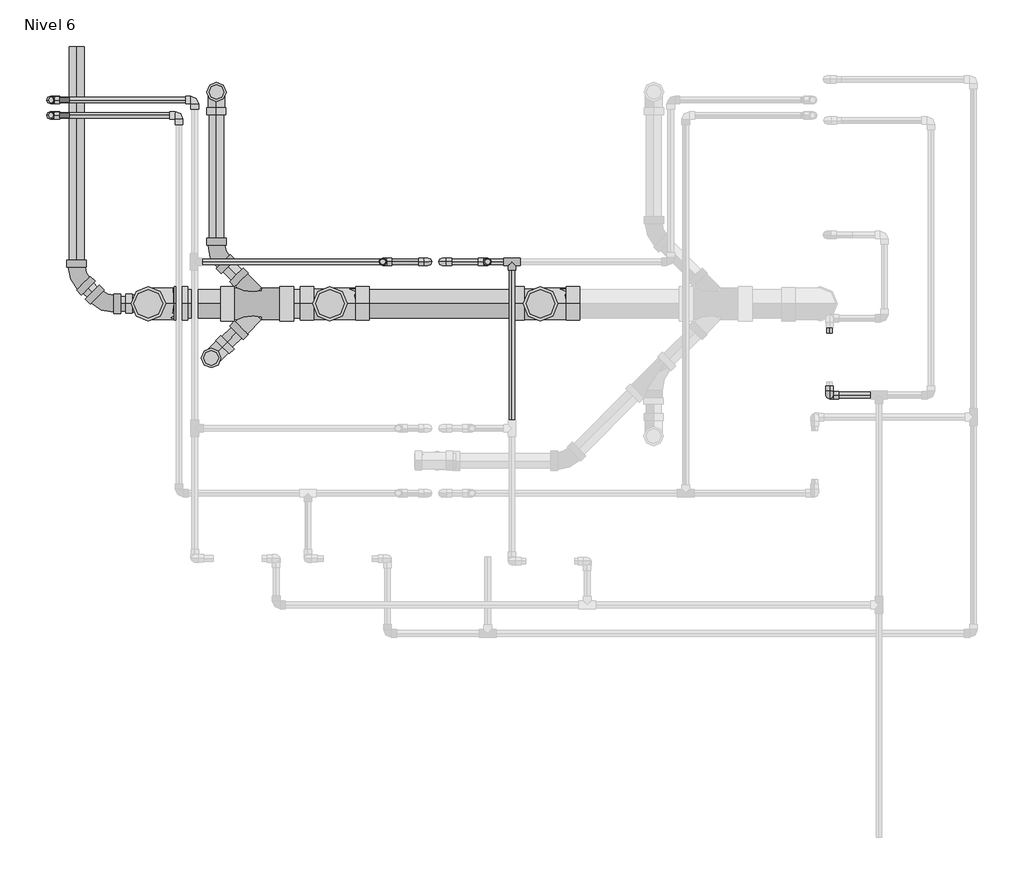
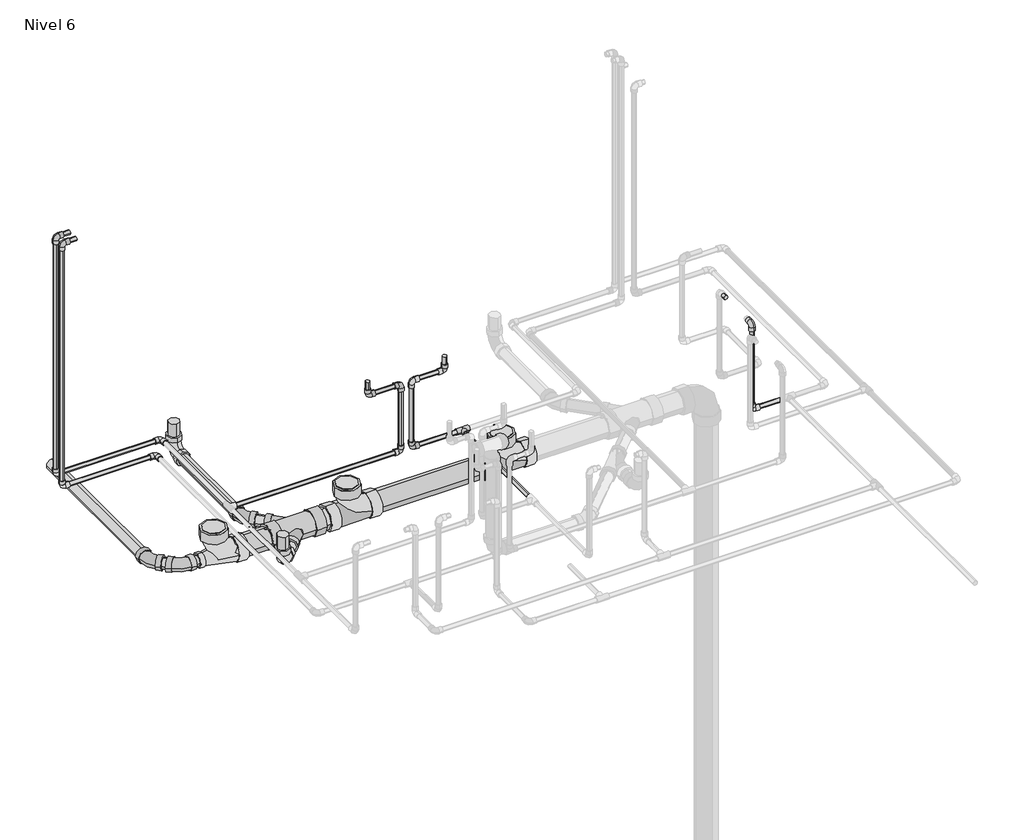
# One storey, part 10 of 11: 32 pipe segments, 24 pipe fittings.
"""IFC4 building model written with IfcOpenShell, lengths in millimetres."""

from ifc_helpers import new_model, si_unit, point, frame, frame_2d, origin, place, context, project, spatial, circle_curve, trimmed, segment, composite_curve, outline, extrude, transform, mapped, element, save
from components import pipe_fitting_ab418b84, pipe_fitting_2a8dfbef, pipe_fitting_44a425ca, pipe_fitting_815a0334, m_codo_pvc_serie_40_9ad74631, m_codo_pvc_serie_40_dwv1_5c0ec739, m_codo_pvc_serie_40_dwv1_6f1a2495

model = new_model("IFC4")

# Units and contexts
model_context = context("Model", 3, world=origin())
ifc_project = project(units=[si_unit("LENGTHUNIT", "METRE", prefix="MILLI")], contexts=[model_context])

# Site, building, storey
site = spatial("IfcSite", under=ifc_project)
building = spatial("IfcBuilding", under=site)
storey = spatial("IfcBuildingStorey", under=building, Name="Nivel 6", Elevation=13400.0)

# Pipe fittings
placement = place(None, origin())
pipe_fitting_shape = pipe_fitting_ab418b84(model_context)
element("IfcPipeFitting", 1, ObjectType="M_Te - PVC - Serie 40 : Estándar", at=placement, inside=storey, context=model_context, shape_type="MappedRepresentation", body=[
    mapped(pipe_fitting_shape, transform((4735.1825677, 16556.8784649, 13350.0), x_axis=(1.0, 0.0, 0.0), y_axis=(0.0, 1.0, 0.0), z_axis=(0.0, 0.0, 1.0))),
])
pipe_fitting_2_shape = pipe_fitting_2a8dfbef(model_context)
element("IfcPipeFitting", 2, ObjectType="M_Sanitario con te de reducción - PVC - Serie 40 - DWV : Estándar", at=placement, inside=storey, context=model_context, shape_type="MappedRepresentation", body=[
    mapped(pipe_fitting_2_shape, transform((4839.2491598, 16403.3960274, 13250.0), x_axis=(-1.0, 0.0, 0.0), y_axis=(0.0, 0.0, -1.0), z_axis=(0.0, -1.0, 0.0))),
])
element("IfcPipeFitting", 3, ObjectType="M_Sanitario con te de reducción - PVC - Serie 40 - DWV : Estándar", at=placement, inside=storey, context=model_context, shape_type="MappedRepresentation", body=[
    mapped(pipe_fitting_2_shape, transform((4070.6571051, 16403.3960274, 13250.0), x_axis=(-1.0, 0.0, 0.0), y_axis=(0.0, 0.0, -1.0), z_axis=(0.0, -1.0, 0.0))),
])
pipe_fitting_3_shape = pipe_fitting_44a425ca(model_context)
element("IfcPipeFitting", 4, ObjectType="M_Sanitario con te de reducción - PVC - Serie 40 - DWV : Estándar", at=placement, inside=storey, context=model_context, shape_type="MappedRepresentation", body=[
    mapped(pipe_fitting_3_shape, transform((3407.8195636, 16403.3960274, 13250.0), x_axis=(-1.0, 0.0, 0.0), y_axis=(0.0, 0.0, -1.0), z_axis=(0.0, -1.0, 0.0))),
])
pipe_fitting_4_shape = pipe_fitting_815a0334(model_context)
element("IfcPipeFitting", 5, ObjectType="M_Sanitario con te doble con reducción - PVC - Serie 40 - DWV : Estándar", at=placement, inside=storey, context=model_context, shape_type="MappedRepresentation", body=[
    mapped(pipe_fitting_4_shape, transform((3835.362636, 16403.3960274, 13250.0), x_axis=(-1.0, 0.0, 0.0), y_axis=(0.0, -1.0, 0.0), z_axis=(0.0, 0.0, 1.0))),
])
m_codo_pvc_serie_40_shape = m_codo_pvc_serie_40_9ad74631(model_context)
element("IfcPipeFitting", 6, ObjectType="M_Codo - PVC - Serie 40 : Estándar", at=placement, inside=storey, context=model_context, shape_type="MappedRepresentation", body=[
    mapped(m_codo_pvc_serie_40_shape, transform((5895.1825677, 16069.8852168, 13350.0), x_axis=(-1.0, 0.0, 0.0), y_axis=(0.0, 0.0, 1.0), z_axis=(0.0, 1.0, 0.0))),
])
element("IfcPipeFitting", 7, ObjectType="M_Codo - PVC - Serie 40 : Estándar", at=placement, inside=storey, context=model_context, shape_type="MappedRepresentation", body=[
    mapped(m_codo_pvc_serie_40_shape, transform((5895.1825677, 16069.8852168, 13800.0), x_axis=(0.0, 0.0, 1.0), y_axis=(0.0, 1.0, 0.0), z_axis=(-1.0, 0.0, 0.0))),
])
element("IfcPipeFitting", 8, ObjectType="M_Codo - PVC - Serie 40 : Estándar", at=placement, inside=storey, context=model_context, shape_type="MappedRepresentation", body=[
    mapped(m_codo_pvc_serie_40_shape, transform((4646.2723463, 16556.8784649, 13700.0), x_axis=(0.0, 0.0, -1.0), y_axis=(-1.0, 0.0, 0.0), z_axis=(0.0, 1.0, 0.0))),
])
element("IfcPipeFitting", 9, ObjectType="M_Codo - PVC - Serie 40 : Estándar", at=placement, inside=storey, context=model_context, shape_type="MappedRepresentation", body=[
    mapped(m_codo_pvc_serie_40_shape, transform((4481.2723463, 16556.8784649, 13700.0), x_axis=(-1.0, 0.0, 0.0), y_axis=(0.0, 0.0, -1.0), z_axis=(0.0, -1.0, 0.0))),
])
element("IfcPipeFitting", 10, ObjectType="M_Codo - PVC - Serie 40 : Estándar", at=placement, inside=storey, context=model_context, shape_type="MappedRepresentation", body=[
    mapped(m_codo_pvc_serie_40_shape, transform((4481.2723463, 16556.8784649, 13350.0), x_axis=(0.0, 0.0, -1.0), y_axis=(1.0, 0.0, 0.0), z_axis=(0.0, -1.0, 0.0))),
])
element("IfcPipeFitting", 11, ObjectType="M_Codo - PVC - Serie 40 : Estándar", at=placement, inside=storey, context=model_context, shape_type="MappedRepresentation", body=[
    mapped(m_codo_pvc_serie_40_shape, transform((4263.6339186, 16556.8784649, 13700.0), x_axis=(0.0, 0.0, -1.0), y_axis=(1.0, 0.0, 0.0), z_axis=(0.0, -1.0, 0.0))),
])
element("IfcPipeFitting", 12, ObjectType="M_Codo - PVC - Serie 40 : Estándar", at=placement, inside=storey, context=model_context, shape_type="MappedRepresentation", body=[
    mapped(m_codo_pvc_serie_40_shape, transform((4428.6339186, 16556.8784649, 13700.0), x_axis=(1.0, 0.0, 0.0), y_axis=(0.0, 0.0, -1.0), z_axis=(0.0, 1.0, 0.0))),
])
element("IfcPipeFitting", 13, ObjectType="M_Codo - PVC - Serie 40 : Estándar", at=placement, inside=storey, context=model_context, shape_type="MappedRepresentation", body=[
    mapped(m_codo_pvc_serie_40_shape, transform((4428.6339186, 16556.8784649, 13350.0), x_axis=(0.0, 0.0, -1.0), y_axis=(-1.0, 0.0, 0.0), z_axis=(0.0, 1.0, 0.0))),
])
element("IfcPipeFitting", 14, ObjectType="M_Codo - PVC - Serie 40 : Estándar", at=placement, inside=storey, context=model_context, shape_type="MappedRepresentation", body=[
    mapped(m_codo_pvc_serie_40_shape, transform((3577.2224115, 17147.3386211, 13350.0), x_axis=(0.0, 1.0, 0.0), y_axis=(-1.0, 0.0, 0.0), z_axis=(0.0, 0.0, 1.0))),
])
element("IfcPipeFitting", 15, ObjectType="M_Codo - PVC - Serie 40 : Estándar", at=placement, inside=storey, context=model_context, shape_type="MappedRepresentation", body=[
    mapped(m_codo_pvc_serie_40_shape, transform((3050.9724115, 17147.3386211, 13350.0), x_axis=(-1.0, 0.0, 0.0), y_axis=(0.0, 0.0, 1.0), z_axis=(0.0, 1.0, 0.0))),
])
element("IfcPipeFitting", 16, ObjectType="M_Codo - PVC - Serie 40 : Estándar", at=placement, inside=storey, context=model_context, shape_type="MappedRepresentation", body=[
    mapped(m_codo_pvc_serie_40_shape, transform((3050.9724115, 17147.3386211, 14600.0), x_axis=(0.0, 0.0, 1.0), y_axis=(1.0, 0.0, 0.0), z_axis=(0.0, 1.0, 0.0))),
])
element("IfcPipeFitting", 17, ObjectType="M_Codo - PVC - Serie 40 : Estándar", at=placement, inside=storey, context=model_context, shape_type="MappedRepresentation", body=[
    mapped(m_codo_pvc_serie_40_shape, transform((3520.1825677, 17091.6215833, 13320.0), x_axis=(0.0, 1.0, 0.0), y_axis=(-1.0, 0.0, 0.0), z_axis=(0.0, 0.0, 1.0))),
])
element("IfcPipeFitting", 18, ObjectType="M_Codo - PVC - Serie 40 : Estándar", at=placement, inside=storey, context=model_context, shape_type="MappedRepresentation", body=[
    mapped(m_codo_pvc_serie_40_shape, transform((3050.1825677, 17091.6215833, 13320.0), x_axis=(-1.0, 0.0, 0.0), y_axis=(0.0, 0.0, 1.0), z_axis=(0.0, 1.0, 0.0))),
])
element("IfcPipeFitting", 19, ObjectType="M_Codo - PVC - Serie 40 : Estándar", at=placement, inside=storey, context=model_context, shape_type="MappedRepresentation", body=[
    mapped(m_codo_pvc_serie_40_shape, transform((3050.1825677, 17091.6215833, 14600.0), x_axis=(0.0, 0.0, 1.0), y_axis=(1.0, 0.0, 0.0), z_axis=(0.0, 1.0, 0.0))),
])
m_codo_pvc_serie_40_dwv1_shape = m_codo_pvc_serie_40_dwv1_5c0ec739(model_context)
element("IfcPipeFitting", 20, ObjectType="M_Codo - PVC - Serie 40 - DWV1 : Estándar 2", at=placement, inside=storey, context=model_context, shape_type="MappedRepresentation", body=[
    mapped(m_codo_pvc_serie_40_dwv1_shape, transform((3637.3727372, 16205.4061286, 13250.0), x_axis=(-0.7071067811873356, -0.7071067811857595, 0.0), y_axis=(0.0, 0.0, 1.0000000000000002), z_axis=(-0.7071067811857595, 0.7071067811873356, 0.0))),
])
element("IfcPipeFitting", 21, ObjectType="M_Codo - PVC - Serie 40 - DWV1 : Estándar 2", at=placement, inside=storey, context=model_context, shape_type="MappedRepresentation", body=[
    mapped(m_codo_pvc_serie_40_dwv1_shape, transform((3656.724176, 17177.0344873, 13250.0), x_axis=(0.0, 1.0, 0.0), y_axis=(0.0, 0.0, 1.0), z_axis=(1.0, 0.0, 0.0))),
])
m_codo_pvc_serie_40_dwv1_2_shape = m_codo_pvc_serie_40_dwv1_6f1a2495(model_context)
element("IfcPipeFitting", 22, ObjectType="M_Codo - PVC - Serie 40 - DWV1 : Estándar 2", at=placement, inside=storey, context=model_context, shape_type="MappedRepresentation", body=[
    mapped(m_codo_pvc_serie_40_dwv1_2_shape, transform((3146.1843946, 16503.1016548, 13250.0), x_axis=(0.0, -1.0, 0.0), y_axis=(1.0, 0.0, 0.0), z_axis=(0.0, 0.0, 1.0))),
])
element("IfcPipeFitting", 23, ObjectType="M_Codo - PVC - Serie 40 - DWV1 : Estándar 2", at=placement, inside=storey, context=model_context, shape_type="MappedRepresentation", body=[
    mapped(m_codo_pvc_serie_40_dwv1_2_shape, transform((3245.8900221, 16403.3960274, 13250.0), x_axis=(0.7071067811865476, -0.7071067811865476, 0.0), y_axis=(0.7071067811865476, 0.7071067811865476, 0.0), z_axis=(0.0, 0.0, 1.0))),
])
element("IfcPipeFitting", 24, ObjectType="M_Codo - PVC - Serie 40 - DWV1 : Estándar 2", at=placement, inside=storey, context=model_context, shape_type="MappedRepresentation", body=[
    mapped(m_codo_pvc_serie_40_dwv1_2_shape, transform((3656.724176, 16582.0344873, 13250.0), x_axis=(0.0, -1.0, 0.0), y_axis=(1.0, 0.0, 0.0), z_axis=(0.0, 0.0, 1.0))),
])

# Pipe segments
element("IfcPipeSegment", 25, ObjectType="Tuberia PVC Agua Fria", at=placement, inside=storey, context=model_context, shape_type="SweptSolid", body=[
    extrude(outline(composite_curve([segment(trimmed(circle_curve(frame_2d((16069.8852168, 13350.0)), 10.31875), [point((16080.2039668, 13350.0))], [point((16069.8852168, 13339.68125))], False, "CARTESIAN"), True, "CONTINUOUS"), segment(trimmed(circle_curve(frame_2d((16069.8852168, 13350.0)), 10.31875), [point((16069.8852168, 13339.68125))], [point((16059.5664668, 13350.0))], False, "CARTESIAN"), True, "CONTINUOUS"), segment(trimmed(circle_curve(frame_2d((16069.8852168, 13350.0)), 10.31875), [point((16059.5664668, 13350.0))], [point((16069.8852168, 13360.31875))], False, "CARTESIAN"), True, "CONTINUOUS"), segment(trimmed(circle_curve(frame_2d((16069.8852168, 13350.0)), 10.31875), [point((16069.8852168, 13360.31875))], [point((16080.2039668, 13350.0))], False, "CARTESIAN"), True, "CONTINUOUS")], self_intersect=False)), frame((5928.5835677, 0.0, 0.0), z_axis=(1.0, 0.0, 0.0), x_axis=(0.0, 1.0, 0.0)), (0.0, 0.0, 1.0), 116.1388438),
])
element("IfcPipeSegment", 26, ObjectType="Tuberia PVC Agua Fria", at=placement, inside=storey, context=model_context, shape_type="SweptSolid", body=[
    extrude(outline(composite_curve([segment(trimmed(circle_curve(frame_2d((13800.0, 5895.1825677)), 10.31875), [point((13800.0, 5905.5013177))], [point((13810.31875, 5895.1825677))], False, "CARTESIAN"), True, "CONTINUOUS"), segment(trimmed(circle_curve(frame_2d((13800.0, 5895.1825677)), 10.31875), [point((13810.31875, 5895.1825677))], [point((13800.0, 5884.8638177))], False, "CARTESIAN"), True, "CONTINUOUS"), segment(trimmed(circle_curve(frame_2d((13800.0, 5895.1825677)), 10.31875), [point((13800.0, 5884.8638177))], [point((13789.68125, 5895.1825677))], False, "CARTESIAN"), True, "CONTINUOUS"), segment(trimmed(circle_curve(frame_2d((13800.0, 5895.1825677)), 10.31875), [point((13789.68125, 5895.1825677))], [point((13800.0, 5905.5013177))], False, "CARTESIAN"), True, "CONTINUOUS")], self_intersect=False)), frame((0.0, 16296.3852168, 0.0), z_axis=(0.0, 1.0, 0.0), x_axis=(0.0, 0.0, 1.0)), (0.0, 0.0, 1.0), 20.099),
])
element("IfcPipeSegment", 27, ObjectType="Tuberia PVC Agua Fria", at=placement, inside=storey, context=model_context, shape_type="SweptSolid", body=[
    extrude(outline(composite_curve([segment(trimmed(circle_curve(frame_2d((5895.1825677, 16069.8852168)), 10.31875), [point((5884.8638177, 16069.8852168))], [point((5895.1825677, 16080.2039668))], False, "CARTESIAN"), True, "CONTINUOUS"), segment(trimmed(circle_curve(frame_2d((5895.1825677, 16069.8852168)), 10.31875), [point((5895.1825677, 16080.2039668))], [point((5905.5013177, 16069.8852168))], False, "CARTESIAN"), True, "CONTINUOUS"), segment(trimmed(circle_curve(frame_2d((5895.1825677, 16069.8852168)), 10.31875), [point((5905.5013177, 16069.8852168))], [point((5895.1825677, 16059.5664668))], False, "CARTESIAN"), True, "CONTINUOUS"), segment(trimmed(circle_curve(frame_2d((5895.1825677, 16069.8852168)), 10.31875), [point((5895.1825677, 16059.5664668))], [point((5884.8638177, 16069.8852168))], False, "CARTESIAN"), True, "CONTINUOUS")], self_intersect=False)), frame((0.0, 0.0, 13383.401), z_axis=(0.0, 0.0, 1.0), x_axis=(1.0, 0.0, 0.0)), (0.0, 0.0, 1.0), 383.198),
])
element("IfcPipeSegment", 28, ObjectType="Tuberia PVC Agua Fria", at=placement, inside=storey, context=model_context, shape_type="SweptSolid", body=[
    extrude(outline(composite_curve([segment(trimmed(circle_curve(frame_2d((13350.0, 4735.1825677)), 10.31875), [point((13350.0, 4745.5013177))], [point((13360.31875, 4735.1825677))], False, "CARTESIAN"), True, "CONTINUOUS"), segment(trimmed(circle_curve(frame_2d((13350.0, 4735.1825677)), 10.31875), [point((13360.31875, 4735.1825677))], [point((13350.0, 4724.8638177))], False, "CARTESIAN"), True, "CONTINUOUS"), segment(trimmed(circle_curve(frame_2d((13350.0, 4735.1825677)), 10.31875), [point((13350.0, 4724.8638177))], [point((13339.68125, 4735.1825677))], False, "CARTESIAN"), True, "CONTINUOUS"), segment(trimmed(circle_curve(frame_2d((13350.0, 4735.1825677)), 10.31875), [point((13339.68125, 4735.1825677))], [point((13350.0, 4745.5013177))], False, "CARTESIAN"), True, "CONTINUOUS")], self_intersect=False)), frame((0.0, 15978.8385729, 0.0), z_axis=(0.0, 1.0, 0.0), x_axis=(0.0, 0.0, 1.0)), (0.0, 0.0, 1.0), 547.5797357),
])
element("IfcPipeSegment", 29, ObjectType="Tuberia PVC Agua Fria", at=placement, inside=storey, context=model_context, shape_type="SweptSolid", body=[
    extrude(outline(composite_curve([segment(trimmed(circle_curve(frame_2d((16556.8784649, 13700.0)), 10.31875), [point((16567.1972149, 13700.0))], [point((16556.8784649, 13689.68125))], False, "CARTESIAN"), True, "CONTINUOUS"), segment(trimmed(circle_curve(frame_2d((16556.8784649, 13700.0)), 10.31875), [point((16556.8784649, 13689.68125))], [point((16546.5597149, 13700.0))], False, "CARTESIAN"), True, "CONTINUOUS"), segment(trimmed(circle_curve(frame_2d((16556.8784649, 13700.0)), 10.31875), [point((16546.5597149, 13700.0))], [point((16556.8784649, 13710.31875))], False, "CARTESIAN"), True, "CONTINUOUS"), segment(trimmed(circle_curve(frame_2d((16556.8784649, 13700.0)), 10.31875), [point((16556.8784649, 13710.31875))], [point((16567.1972149, 13700.0))], False, "CARTESIAN"), True, "CONTINUOUS")], self_intersect=False)), frame((4514.6733463, 0.0, 0.0), z_axis=(1.0, 0.0, 0.0), x_axis=(0.0, 1.0, 0.0)), (0.0, 0.0, 1.0), 98.198),
])
element("IfcPipeSegment", 30, ObjectType="Tuberia PVC Agua Fria", at=placement, inside=storey, context=model_context, shape_type="SweptSolid", body=[
    extrude(outline(composite_curve([segment(trimmed(circle_curve(frame_2d((4646.2723463, 16556.8784649)), 10.31875), [point((4656.5910963, 16556.8784649))], [point((4646.2723463, 16546.5597149))], False, "CARTESIAN"), True, "CONTINUOUS"), segment(trimmed(circle_curve(frame_2d((4646.2723463, 16556.8784649)), 10.31875), [point((4646.2723463, 16546.5597149))], [point((4635.9535963, 16556.8784649))], False, "CARTESIAN"), True, "CONTINUOUS"), segment(trimmed(circle_curve(frame_2d((4646.2723463, 16556.8784649)), 10.31875), [point((4635.9535963, 16556.8784649))], [point((4646.2723463, 16567.1972149))], False, "CARTESIAN"), True, "CONTINUOUS"), segment(trimmed(circle_curve(frame_2d((4646.2723463, 16556.8784649)), 10.31875), [point((4646.2723463, 16567.1972149))], [point((4656.5910963, 16556.8784649))], False, "CARTESIAN"), True, "CONTINUOUS")], self_intersect=False)), frame((0.0, 0.0, 13733.401), z_axis=(0.0, 0.0, 1.0), x_axis=(1.0, 0.0, 0.0)), (0.0, 0.0, 1.0), 39.7562509),
])
element("IfcPipeSegment", 31, ObjectType="Tuberia PVC Agua Fria", at=placement, inside=storey, context=model_context, shape_type="SweptSolid", body=[
    extrude(outline(composite_curve([segment(trimmed(circle_curve(frame_2d((16556.8784649, 13350.0)), 10.31875), [point((16567.1972149, 13350.0))], [point((16556.8784649, 13339.68125))], False, "CARTESIAN"), True, "CONTINUOUS"), segment(trimmed(circle_curve(frame_2d((16556.8784649, 13350.0)), 10.31875), [point((16556.8784649, 13339.68125))], [point((16546.5597149, 13350.0))], False, "CARTESIAN"), True, "CONTINUOUS"), segment(trimmed(circle_curve(frame_2d((16556.8784649, 13350.0)), 10.31875), [point((16546.5597149, 13350.0))], [point((16556.8784649, 13360.31875))], False, "CARTESIAN"), True, "CONTINUOUS"), segment(trimmed(circle_curve(frame_2d((16556.8784649, 13350.0)), 10.31875), [point((16556.8784649, 13360.31875))], [point((16567.1972149, 13350.0))], False, "CARTESIAN"), True, "CONTINUOUS")], self_intersect=False)), frame((4514.6733463, 0.0, 0.0), z_axis=(1.0, 0.0, 0.0), x_axis=(0.0, 1.0, 0.0)), (0.0, 0.0, 1.0), 190.0490652),
])
element("IfcPipeSegment", 32, ObjectType="Tuberia PVC Agua Fria", at=placement, inside=storey, context=model_context, shape_type="SweptSolid", body=[
    extrude(outline(composite_curve([segment(trimmed(circle_curve(frame_2d((4481.2723463, 16556.8784649)), 10.31875), [point((4491.5910963, 16556.8784649))], [point((4481.2723463, 16546.5597149))], False, "CARTESIAN"), True, "CONTINUOUS"), segment(trimmed(circle_curve(frame_2d((4481.2723463, 16556.8784649)), 10.31875), [point((4481.2723463, 16546.5597149))], [point((4470.9535963, 16556.8784649))], False, "CARTESIAN"), True, "CONTINUOUS"), segment(trimmed(circle_curve(frame_2d((4481.2723463, 16556.8784649)), 10.31875), [point((4470.9535963, 16556.8784649))], [point((4481.2723463, 16567.1972149))], False, "CARTESIAN"), True, "CONTINUOUS"), segment(trimmed(circle_curve(frame_2d((4481.2723463, 16556.8784649)), 10.31875), [point((4481.2723463, 16567.1972149))], [point((4491.5910963, 16556.8784649))], False, "CARTESIAN"), True, "CONTINUOUS")], self_intersect=False)), frame((0.0, 0.0, 13383.401), z_axis=(0.0, 0.0, 1.0), x_axis=(1.0, 0.0, 0.0)), (0.0, 0.0, 1.0), 283.198),
])
element("IfcPipeSegment", 33, ObjectType="Tuberia PVC Agua Fria", at=placement, inside=storey, context=model_context, shape_type="SweptSolid", body=[
    extrude(outline(composite_curve([segment(trimmed(circle_curve(frame_2d((16556.8784649, 13700.0)), 10.31875), [point((16546.5597149, 13700.0))], [point((16556.8784649, 13710.31875))], False, "CARTESIAN"), True, "CONTINUOUS"), segment(trimmed(circle_curve(frame_2d((16556.8784649, 13700.0)), 10.31875), [point((16556.8784649, 13710.31875))], [point((16567.1972149, 13700.0))], False, "CARTESIAN"), True, "CONTINUOUS"), segment(trimmed(circle_curve(frame_2d((16556.8784649, 13700.0)), 10.31875), [point((16567.1972149, 13700.0))], [point((16556.8784649, 13689.68125))], False, "CARTESIAN"), True, "CONTINUOUS"), segment(trimmed(circle_curve(frame_2d((16556.8784649, 13700.0)), 10.31875), [point((16556.8784649, 13689.68125))], [point((16546.5597149, 13700.0))], False, "CARTESIAN"), True, "CONTINUOUS")], self_intersect=False)), frame((4297.0349186, 0.0, 0.0), z_axis=(1.0, 0.0, 0.0), x_axis=(0.0, 1.0, 0.0)), (0.0, 0.0, 1.0), 98.198),
])
element("IfcPipeSegment", 34, ObjectType="Tuberia PVC Agua Fria", at=placement, inside=storey, context=model_context, shape_type="SweptSolid", body=[
    extrude(outline(composite_curve([segment(trimmed(circle_curve(frame_2d((4263.6339186, 16556.8784649)), 10.31875), [point((4273.9526686, 16556.8784649))], [point((4263.6339186, 16546.5597149))], False, "CARTESIAN"), True, "CONTINUOUS"), segment(trimmed(circle_curve(frame_2d((4263.6339186, 16556.8784649)), 10.31875), [point((4263.6339186, 16546.5597149))], [point((4253.3151686, 16556.8784649))], False, "CARTESIAN"), True, "CONTINUOUS"), segment(trimmed(circle_curve(frame_2d((4263.6339186, 16556.8784649)), 10.31875), [point((4253.3151686, 16556.8784649))], [point((4263.6339186, 16567.1972149))], False, "CARTESIAN"), True, "CONTINUOUS"), segment(trimmed(circle_curve(frame_2d((4263.6339186, 16556.8784649)), 10.31875), [point((4263.6339186, 16567.1972149))], [point((4273.9526686, 16556.8784649))], False, "CARTESIAN"), True, "CONTINUOUS")], self_intersect=False)), frame((0.0, 0.0, 13733.401), z_axis=(0.0, 0.0, 1.0), x_axis=(1.0, 0.0, 0.0)), (0.0, 0.0, 1.0), 39.7562509),
])
element("IfcPipeSegment", 35, ObjectType="Tuberia PVC Agua Fria", at=placement, inside=storey, context=model_context, shape_type="SweptSolid", body=[
    extrude(outline(composite_curve([segment(trimmed(circle_curve(frame_2d((16556.8784649, 13350.0)), 10.31875), [point((16567.1972149, 13350.0))], [point((16556.8784649, 13339.68125))], False, "CARTESIAN"), True, "CONTINUOUS"), segment(trimmed(circle_curve(frame_2d((16556.8784649, 13350.0)), 10.31875), [point((16556.8784649, 13339.68125))], [point((16546.5597149, 13350.0))], False, "CARTESIAN"), True, "CONTINUOUS"), segment(trimmed(circle_curve(frame_2d((16556.8784649, 13350.0)), 10.31875), [point((16546.5597149, 13350.0))], [point((16556.8784649, 13360.31875))], False, "CARTESIAN"), True, "CONTINUOUS"), segment(trimmed(circle_curve(frame_2d((16556.8784649, 13350.0)), 10.31875), [point((16556.8784649, 13360.31875))], [point((16567.1972149, 13350.0))], False, "CARTESIAN"), True, "CONTINUOUS")], self_intersect=False)), frame((3605.1825677, 0.0, 0.0), z_axis=(1.0, 0.0, 0.0), x_axis=(0.0, 1.0, 0.0)), (0.0, 0.0, 1.0), 790.0503508),
])
element("IfcPipeSegment", 36, ObjectType="Tuberia PVC Agua Fria", at=placement, inside=storey, context=model_context, shape_type="SweptSolid", body=[
    extrude(outline(composite_curve([segment(trimmed(circle_curve(frame_2d((4428.6339186, 16556.8784649)), 10.31875), [point((4438.9526686, 16556.8784649))], [point((4428.6339186, 16546.5597149))], False, "CARTESIAN"), True, "CONTINUOUS"), segment(trimmed(circle_curve(frame_2d((4428.6339186, 16556.8784649)), 10.31875), [point((4428.6339186, 16546.5597149))], [point((4418.3151686, 16556.8784649))], False, "CARTESIAN"), True, "CONTINUOUS"), segment(trimmed(circle_curve(frame_2d((4428.6339186, 16556.8784649)), 10.31875), [point((4418.3151686, 16556.8784649))], [point((4428.6339186, 16567.1972149))], False, "CARTESIAN"), True, "CONTINUOUS"), segment(trimmed(circle_curve(frame_2d((4428.6339186, 16556.8784649)), 10.31875), [point((4428.6339186, 16567.1972149))], [point((4438.9526686, 16556.8784649))], False, "CARTESIAN"), True, "CONTINUOUS")], self_intersect=False)), frame((0.0, 0.0, 13383.401), z_axis=(0.0, 0.0, 1.0), x_axis=(1.0, 0.0, 0.0)), (0.0, 0.0, 1.0), 283.198),
])
element("IfcPipeSegment", 37, ObjectType="Tuberia PVC Agua Fria", at=placement, inside=storey, context=model_context, shape_type="SweptSolid", body=[
    extrude(outline(composite_curve([segment(trimmed(circle_curve(frame_2d((17147.3386211, 13350.0)), 10.31875), [point((17157.6573711, 13350.0))], [point((17147.3386211, 13339.68125))], False, "CARTESIAN"), True, "CONTINUOUS"), segment(trimmed(circle_curve(frame_2d((17147.3386211, 13350.0)), 10.31875), [point((17147.3386211, 13339.68125))], [point((17137.0198711, 13350.0))], False, "CARTESIAN"), True, "CONTINUOUS"), segment(trimmed(circle_curve(frame_2d((17147.3386211, 13350.0)), 10.31875), [point((17137.0198711, 13350.0))], [point((17147.3386211, 13360.31875))], False, "CARTESIAN"), True, "CONTINUOUS"), segment(trimmed(circle_curve(frame_2d((17147.3386211, 13350.0)), 10.31875), [point((17147.3386211, 13360.31875))], [point((17157.6573711, 13350.0))], False, "CARTESIAN"), True, "CONTINUOUS")], self_intersect=False)), frame((3084.3734115, 0.0, 0.0), z_axis=(1.0, 0.0, 0.0), x_axis=(0.0, 1.0, 0.0)), (0.0, 0.0, 1.0), 459.448),
])
element("IfcPipeSegment", 38, ObjectType="Tuberia PVC Agua Fria", at=placement, inside=storey, context=model_context, shape_type="SweptSolid", body=[
    extrude(outline(composite_curve([segment(trimmed(circle_curve(frame_2d((17147.3386211, 14600.0)), 10.31875), [point((17137.0198711, 14600.0))], [point((17147.3386211, 14610.31875))], False, "CARTESIAN"), True, "CONTINUOUS"), segment(trimmed(circle_curve(frame_2d((17147.3386211, 14600.0)), 10.31875), [point((17147.3386211, 14610.31875))], [point((17157.6573711, 14600.0))], False, "CARTESIAN"), True, "CONTINUOUS"), segment(trimmed(circle_curve(frame_2d((17147.3386211, 14600.0)), 10.31875), [point((17157.6573711, 14600.0))], [point((17147.3386211, 14589.68125))], False, "CARTESIAN"), True, "CONTINUOUS"), segment(trimmed(circle_curve(frame_2d((17147.3386211, 14600.0)), 10.31875), [point((17147.3386211, 14589.68125))], [point((17137.0198711, 14600.0))], False, "CARTESIAN"), True, "CONTINUOUS")], self_intersect=False)), frame((3084.3734115, 0.0, 0.0), z_axis=(1.0, 0.0, 0.0), x_axis=(0.0, 1.0, 0.0)), (0.0, 0.0, 1.0), 35.349),
])
element("IfcPipeSegment", 39, ObjectType="Tuberia PVC Agua Fria", at=placement, inside=storey, context=model_context, shape_type="SweptSolid", body=[
    extrude(outline(composite_curve([segment(trimmed(circle_curve(frame_2d((3050.9724115, 17147.3386211)), 10.31875), [point((3040.6536615, 17147.3386211))], [point((3050.9724115, 17157.6573711))], False, "CARTESIAN"), True, "CONTINUOUS"), segment(trimmed(circle_curve(frame_2d((3050.9724115, 17147.3386211)), 10.31875), [point((3050.9724115, 17157.6573711))], [point((3061.2911615, 17147.3386211))], False, "CARTESIAN"), True, "CONTINUOUS"), segment(trimmed(circle_curve(frame_2d((3050.9724115, 17147.3386211)), 10.31875), [point((3061.2911615, 17147.3386211))], [point((3050.9724115, 17137.0198711))], False, "CARTESIAN"), True, "CONTINUOUS"), segment(trimmed(circle_curve(frame_2d((3050.9724115, 17147.3386211)), 10.31875), [point((3050.9724115, 17137.0198711))], [point((3040.6536615, 17147.3386211))], False, "CARTESIAN"), True, "CONTINUOUS")], self_intersect=False)), frame((0.0, 0.0, 13383.401), z_axis=(0.0, 0.0, 1.0), x_axis=(1.0, 0.0, 0.0)), (0.0, 0.0, 1.0), 1183.198),
])
element("IfcPipeSegment", 40, ObjectType="Tuberia PVC VENTILACION", at=placement, inside=storey, context=model_context, shape_type="SweptSolid", body=[
    extrude(outline(composite_curve([segment(trimmed(circle_curve(frame_2d((16403.3960274, 13250.0)), 26.9875), [point((16376.4085274, 13250.0))], [point((16403.3960274, 13276.9875))], False, "CARTESIAN"), True, "CONTINUOUS"), segment(trimmed(circle_curve(frame_2d((16403.3960274, 13250.0)), 26.9875), [point((16403.3960274, 13276.9875))], [point((16430.3835274, 13250.0))], False, "CARTESIAN"), True, "CONTINUOUS"), segment(trimmed(circle_curve(frame_2d((16403.3960274, 13250.0)), 26.9875), [point((16430.3835274, 13250.0))], [point((16403.3960274, 13223.0125))], False, "CARTESIAN"), True, "CONTINUOUS"), segment(trimmed(circle_curve(frame_2d((16403.3960274, 13250.0)), 26.9875), [point((16403.3960274, 13223.0125))], [point((16376.4085274, 13250.0))], False, "CARTESIAN"), True, "CONTINUOUS")], self_intersect=False)), frame((3306.3182096, 0.0, 0.0), z_axis=(1.0, 0.0, 0.0), x_axis=(0.0, 1.0, 0.0)), (0.0, 0.0, 1.0), 19.5718125),
])
element("IfcPipeSegment", 41, ObjectType="Tuberia PVC VENTILACION", at=placement, inside=storey, context=model_context, shape_type="SweptSolid", body=[
    extrude(outline(composite_curve([segment(trimmed(circle_curve(frame_2d((0.0, 26.9875)), 26.9875), [point((26.9875001, 26.9875))], [point((0.0, 0.0))], False, "CARTESIAN"), True, "CONTINUOUS"), segment(trimmed(circle_curve(frame_2d((0.0, 26.9875)), 26.9875), [point((0.0, 0.0))], [point((-26.9875001, 26.9875))], False, "CARTESIAN"), True, "CONTINUOUS"), segment(trimmed(circle_curve(frame_2d((0.0, 26.9875)), 26.9875), [point((-26.9875001, 26.9875))], [point((0.0, 53.975))], False, "CARTESIAN"), True, "CONTINUOUS"), segment(trimmed(circle_curve(frame_2d((0.0, 26.9875)), 26.9875), [point((0.0, 53.975))], [point((26.9875001, 26.9875))], False, "CARTESIAN"), True, "CONTINUOUS")], self_intersect=False)), frame((3203.1608409, 16446.1252085, 13276.9875), z_axis=(-0.7071067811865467, 0.7071067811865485, 0.0), x_axis=(0.7071067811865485, 0.7071067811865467, 0.0)), (0.0, 0.0, 1.0), 20.1486756),
])
element("IfcPipeSegment", 42, ObjectType="Tuberia PVC VENTILACION", at=placement, inside=storey, context=model_context, shape_type="SweptSolid", body=[
    extrude(outline(composite_curve([segment(trimmed(circle_curve(frame_2d((13250.0, 3146.1843946)), 26.9875), [point((13250.0, 3173.1718946))], [point((13276.9875, 3146.1843946))], False, "CARTESIAN"), True, "CONTINUOUS"), segment(trimmed(circle_curve(frame_2d((13250.0, 3146.1843946)), 26.9875), [point((13276.9875, 3146.1843946))], [point((13250.0, 3119.1968946))], False, "CARTESIAN"), True, "CONTINUOUS"), segment(trimmed(circle_curve(frame_2d((13250.0, 3146.1843946)), 26.9875), [point((13250.0, 3119.1968946))], [point((13223.0125, 3146.1843946))], False, "CARTESIAN"), True, "CONTINUOUS"), segment(trimmed(circle_curve(frame_2d((13250.0, 3146.1843946)), 26.9875), [point((13223.0125, 3146.1843946))], [point((13250.0, 3173.1718946))], False, "CARTESIAN"), True, "CONTINUOUS")], self_intersect=False)), frame((0.0, 16563.5298423, 0.0), z_axis=(0.0, 1.0, 0.0), x_axis=(0.0, 0.0, 1.0)), (0.0, 0.0, 1.0), 779.5718125),
])
element("IfcPipeSegment", 43, ObjectType="Tuberia PVC Agua Caliente", at=placement, inside=storey, context=model_context, shape_type="SweptSolid", body=[
    extrude(outline(composite_curve([segment(trimmed(circle_curve(frame_2d((17091.6215833, 13320.0)), 10.31875), [point((17101.9403333, 13320.0))], [point((17091.6215833, 13309.68125))], False, "CARTESIAN"), True, "CONTINUOUS"), segment(trimmed(circle_curve(frame_2d((17091.6215833, 13320.0)), 10.31875), [point((17091.6215833, 13309.68125))], [point((17081.3028333, 13320.0))], False, "CARTESIAN"), True, "CONTINUOUS"), segment(trimmed(circle_curve(frame_2d((17091.6215833, 13320.0)), 10.31875), [point((17081.3028333, 13320.0))], [point((17091.6215833, 13330.31875))], False, "CARTESIAN"), True, "CONTINUOUS"), segment(trimmed(circle_curve(frame_2d((17091.6215833, 13320.0)), 10.31875), [point((17091.6215833, 13330.31875))], [point((17101.9403333, 13320.0))], False, "CARTESIAN"), True, "CONTINUOUS")], self_intersect=False)), frame((3083.5835677, 0.0, 0.0), z_axis=(1.0, 0.0, 0.0), x_axis=(0.0, 1.0, 0.0)), (0.0, 0.0, 1.0), 403.198),
])
element("IfcPipeSegment", 44, ObjectType="Tuberia PVC Agua Caliente", at=placement, inside=storey, context=model_context, shape_type="SweptSolid", body=[
    extrude(outline(composite_curve([segment(trimmed(circle_curve(frame_2d((17091.6215833, 14600.0)), 10.31875), [point((17081.3028333, 14600.0))], [point((17091.6215833, 14610.31875))], False, "CARTESIAN"), True, "CONTINUOUS"), segment(trimmed(circle_curve(frame_2d((17091.6215833, 14600.0)), 10.31875), [point((17091.6215833, 14610.31875))], [point((17101.9403333, 14600.0))], False, "CARTESIAN"), True, "CONTINUOUS"), segment(trimmed(circle_curve(frame_2d((17091.6215833, 14600.0)), 10.31875), [point((17101.9403333, 14600.0))], [point((17091.6215833, 14589.68125))], False, "CARTESIAN"), True, "CONTINUOUS"), segment(trimmed(circle_curve(frame_2d((17091.6215833, 14600.0)), 10.31875), [point((17091.6215833, 14589.68125))], [point((17081.3028333, 14600.0))], False, "CARTESIAN"), True, "CONTINUOUS")], self_intersect=False)), frame((3083.5835677, 0.0, 0.0), z_axis=(1.0, 0.0, 0.0), x_axis=(0.0, 1.0, 0.0)), (0.0, 0.0, 1.0), 36.1388437),
])
element("IfcPipeSegment", 45, ObjectType="Tuberia PVC Agua Caliente", at=placement, inside=storey, context=model_context, shape_type="SweptSolid", body=[
    extrude(outline(composite_curve([segment(trimmed(circle_curve(frame_2d((3050.1825677, 17091.6215833)), 10.31875), [point((3039.8638177, 17091.6215833))], [point((3050.1825677, 17101.9403333))], False, "CARTESIAN"), True, "CONTINUOUS"), segment(trimmed(circle_curve(frame_2d((3050.1825677, 17091.6215833)), 10.31875), [point((3050.1825677, 17101.9403333))], [point((3060.5013177, 17091.6215833))], False, "CARTESIAN"), True, "CONTINUOUS"), segment(trimmed(circle_curve(frame_2d((3050.1825677, 17091.6215833)), 10.31875), [point((3060.5013177, 17091.6215833))], [point((3050.1825677, 17081.3028333))], False, "CARTESIAN"), True, "CONTINUOUS"), segment(trimmed(circle_curve(frame_2d((3050.1825677, 17091.6215833)), 10.31875), [point((3050.1825677, 17081.3028333))], [point((3039.8638177, 17091.6215833))], False, "CARTESIAN"), True, "CONTINUOUS")], self_intersect=False)), frame((0.0, 0.0, 13353.401), z_axis=(0.0, 0.0, 1.0), x_axis=(1.0, 0.0, 0.0)), (0.0, 0.0, 1.0), 1213.198),
])
element("IfcPipeSegment", 46, ObjectType="Tuberia PVC Sanitario", at=placement, inside=storey, context=model_context, shape_type="SweptSolid", body=[
    extrude(outline(composite_curve([segment(trimmed(circle_curve(frame_2d((4839.2491598, 16403.3960274)), 52.3875), [point((4891.6366598, 16403.3960274))], [point((4839.2491598, 16351.0085274))], False, "CARTESIAN"), True, "CONTINUOUS"), segment(trimmed(circle_curve(frame_2d((4839.2491598, 16403.3960274)), 52.3875), [point((4839.2491598, 16351.0085274))], [point((4786.8616598, 16403.3960274))], False, "CARTESIAN"), True, "CONTINUOUS"), segment(trimmed(circle_curve(frame_2d((4839.2491598, 16403.3960274)), 52.3875), [point((4786.8616598, 16403.3960274))], [point((4839.2491598, 16455.7835274))], False, "CARTESIAN"), True, "CONTINUOUS"), segment(trimmed(circle_curve(frame_2d((4839.2491598, 16403.3960274)), 52.3875), [point((4839.2491598, 16455.7835274))], [point((4891.6366598, 16403.3960274))], False, "CARTESIAN"), True, "CONTINUOUS")], self_intersect=False)), frame((0.0, 0.0, 13396.8159687), z_axis=(0.0, 0.0, 1.0), x_axis=(1.0, 0.0, 0.0)), (0.0, 0.0, 1.0), 3.1840312),
])
element("IfcPipeSegment", 47, ObjectType="Tuberia PVC Sanitario", at=placement, inside=storey, context=model_context, shape_type="SweptSolid", body=[
    extrude(outline(composite_curve([segment(trimmed(circle_curve(frame_2d((4070.6571051, 16403.3960274)), 52.3875), [point((4123.0446051, 16403.3960274))], [point((4070.6571051, 16351.0085274))], False, "CARTESIAN"), True, "CONTINUOUS"), segment(trimmed(circle_curve(frame_2d((4070.6571051, 16403.3960274)), 52.3875), [point((4070.6571051, 16351.0085274))], [point((4018.2696051, 16403.3960274))], False, "CARTESIAN"), True, "CONTINUOUS"), segment(trimmed(circle_curve(frame_2d((4070.6571051, 16403.3960274)), 52.3875), [point((4018.2696051, 16403.3960274))], [point((4070.6571051, 16455.7835274))], False, "CARTESIAN"), True, "CONTINUOUS"), segment(trimmed(circle_curve(frame_2d((4070.6571051, 16403.3960274)), 52.3875), [point((4070.6571051, 16455.7835274))], [point((4123.0446051, 16403.3960274))], False, "CARTESIAN"), True, "CONTINUOUS")], self_intersect=False)), frame((0.0, 0.0, 13396.8159687), z_axis=(0.0, 0.0, 1.0), x_axis=(1.0, 0.0, 0.0)), (0.0, 0.0, 1.0), 3.1840312),
])
element("IfcPipeSegment", 48, ObjectType="Tuberia PVC Sanitario", at=placement, inside=storey, context=model_context, shape_type="SweptSolid", body=[
    extrude(outline(composite_curve([segment(trimmed(circle_curve(frame_2d((16403.3960274, 13250.0)), 52.3875), [point((16351.0085274, 13250.0))], [point((16403.3960274, 13302.3875))], False, "CARTESIAN"), True, "CONTINUOUS"), segment(trimmed(circle_curve(frame_2d((16403.3960274, 13250.0)), 52.3875), [point((16403.3960274, 13302.3875))], [point((16455.7835274, 13250.0))], False, "CARTESIAN"), True, "CONTINUOUS"), segment(trimmed(circle_curve(frame_2d((16403.3960274, 13250.0)), 52.3875), [point((16455.7835274, 13250.0))], [point((16403.3960274, 13197.6125))], False, "CARTESIAN"), True, "CONTINUOUS"), segment(trimmed(circle_curve(frame_2d((16403.3960274, 13250.0)), 52.3875), [point((16403.3960274, 13197.6125))], [point((16351.0085274, 13250.0))], False, "CARTESIAN"), True, "CONTINUOUS")], self_intersect=False)), frame((4214.5518198, 0.0, 0.0), z_axis=(1.0, 0.0, 0.0), x_axis=(0.0, 1.0, 0.0)), (0.0, 0.0, 1.0), 516.8597985),
])
element("IfcPipeSegment", 49, ObjectType="Tuberia PVC Sanitario", at=placement, inside=storey, context=model_context, shape_type="SweptSolid", body=[
    extrude(outline(composite_curve([segment(trimmed(circle_curve(frame_2d((3407.8195636, 16403.3960274)), 52.3875), [point((3355.4320636, 16403.3960274))], [point((3407.8195636, 16455.7835274))], False, "CARTESIAN"), True, "CONTINUOUS"), segment(trimmed(circle_curve(frame_2d((3407.8195636, 16403.3960274)), 52.3875), [point((3407.8195636, 16455.7835274))], [point((3460.2070636, 16403.3960274))], False, "CARTESIAN"), True, "CONTINUOUS"), segment(trimmed(circle_curve(frame_2d((3407.8195636, 16403.3960274)), 52.3875), [point((3460.2070636, 16403.3960274))], [point((3407.8195636, 16351.0085274))], False, "CARTESIAN"), True, "CONTINUOUS"), segment(trimmed(circle_curve(frame_2d((3407.8195636, 16403.3960274)), 52.3875), [point((3407.8195636, 16351.0085274))], [point((3355.4320636, 16403.3960274))], False, "CARTESIAN"), True, "CONTINUOUS")], self_intersect=False)), frame((0.0, 0.0, 13396.8159688), z_axis=(0.0, 0.0, 1.0), x_axis=(1.0, 0.0, 0.0)), (0.0, 0.0, 1.0), 3.1840312),
])
element("IfcPipeSegment", 50, ObjectType="Tuberia PVC Sanitario", at=placement, inside=storey, context=model_context, shape_type="SweptSolid", body=[
    extrude(outline(composite_curve([segment(trimmed(circle_curve(frame_2d((0.0, -26.9875)), 26.9875), [point((-26.9875001, -26.9875))], [point((0.0, 0.0))], False, "CARTESIAN"), True, "CONTINUOUS"), segment(trimmed(circle_curve(frame_2d((0.0, -26.9875)), 26.9875), [point((0.0, 0.0))], [point((26.9874999, -26.9875))], False, "CARTESIAN"), True, "CONTINUOUS"), segment(trimmed(circle_curve(frame_2d((0.0, -26.9875)), 26.9875), [point((26.9874999, -26.9875))], [point((0.0, -53.975))], False, "CARTESIAN"), True, "CONTINUOUS"), segment(trimmed(circle_curve(frame_2d((0.0, -26.9875)), 26.9875), [point((0.0, -53.975))], [point((-26.9875001, -26.9875))], False, "CARTESIAN"), True, "CONTINUOUS")], self_intersect=False)), frame((3695.7387894, 16263.7721807, 13223.0125), z_axis=(0.7071067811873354, 0.7071067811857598, 0.0), x_axis=(0.7071067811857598, -0.7071067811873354, 0.0)), (0.0, 0.0, 1.0), 47.7539368),
])
element("IfcPipeSegment", 51, ObjectType="Tuberia PVC Sanitario", at=placement, inside=storey, context=model_context, shape_type="SweptSolid", body=[
    extrude(outline(composite_curve([segment(trimmed(circle_curve(frame_2d((16403.3960274, 13250.0)), 52.3875), [point((16455.7835274, 13250.0))], [point((16403.3960274, 13197.6125))], False, "CARTESIAN"), True, "CONTINUOUS"), segment(trimmed(circle_curve(frame_2d((16403.3960274, 13250.0)), 52.3875), [point((16403.3960274, 13197.6125))], [point((16351.0085274, 13250.0))], False, "CARTESIAN"), True, "CONTINUOUS"), segment(trimmed(circle_curve(frame_2d((16403.3960274, 13250.0)), 52.3875), [point((16351.0085274, 13250.0))], [point((16403.3960274, 13302.3875))], False, "CARTESIAN"), True, "CONTINUOUS"), segment(trimmed(circle_curve(frame_2d((16403.3960274, 13250.0)), 52.3875), [point((16403.3960274, 13302.3875))], [point((16455.7835274, 13250.0))], False, "CARTESIAN"), True, "CONTINUOUS")], self_intersect=False)), frame((3937.9865735, 0.0, 0.0), z_axis=(1.0, 0.0, 0.0), x_axis=(0.0, 1.0, 0.0)), (0.0, 0.0, 1.0), 24.8329901),
])
element("IfcPipeSegment", 52, ObjectType="Tuberia PVC Sanitario", at=placement, inside=storey, context=model_context, shape_type="SweptSolid", body=[
    extrude(outline(composite_curve([segment(trimmed(circle_curve(frame_2d((16403.3960274, 13250.0)), 52.3875), [point((16351.0085274, 13250.0))], [point((16403.3960274, 13302.3875))], False, "CARTESIAN"), True, "CONTINUOUS"), segment(trimmed(circle_curve(frame_2d((16403.3960274, 13250.0)), 52.3875), [point((16403.3960274, 13302.3875))], [point((16455.7835274, 13250.0))], False, "CARTESIAN"), True, "CONTINUOUS"), segment(trimmed(circle_curve(frame_2d((16403.3960274, 13250.0)), 52.3875), [point((16455.7835274, 13250.0))], [point((16403.3960274, 13197.6125))], False, "CARTESIAN"), True, "CONTINUOUS"), segment(trimmed(circle_curve(frame_2d((16403.3960274, 13250.0)), 52.3875), [point((16403.3960274, 13197.6125))], [point((16351.0085274, 13250.0))], False, "CARTESIAN"), True, "CONTINUOUS")], self_intersect=False)), frame((3551.7142783, 0.0, 0.0), z_axis=(1.0, 0.0, 0.0), x_axis=(0.0, 1.0, 0.0)), (0.0, 0.0, 1.0), 119.9070634),
])
element("IfcPipeSegment", 53, ObjectType="Tuberia PVC Sanitario", at=placement, inside=storey, context=model_context, shape_type="SweptSolid", body=[
    extrude(outline(composite_curve([segment(trimmed(circle_curve(frame_2d((0.0, 26.9875)), 26.9875), [point((26.9875, 26.9875))], [point((0.0, 0.0))], False, "CARTESIAN"), True, "CONTINUOUS"), segment(trimmed(circle_curve(frame_2d((0.0, 26.9875)), 26.9875), [point((0.0, 0.0))], [point((-26.9875, 26.9875))], False, "CARTESIAN"), True, "CONTINUOUS"), segment(trimmed(circle_curve(frame_2d((0.0, 26.9875)), 26.9875), [point((-26.9875, 26.9875))], [point((0.0, 53.975))], False, "CARTESIAN"), True, "CONTINUOUS"), segment(trimmed(circle_curve(frame_2d((0.0, 26.9875)), 26.9875), [point((0.0, 53.975))], [point((26.9875, 26.9875))], False, "CARTESIAN"), True, "CONTINUOUS")], self_intersect=False)), frame((3729.5059219, 16509.2527414, 13276.9875), z_axis=(-0.7071067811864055, 0.7071067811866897, 0.0), x_axis=(0.7071067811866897, 0.7071067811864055, 0.0)), (0.0, 0.0, 1.0), 42.5007447),
])
element("IfcPipeSegment", 54, ObjectType="Tuberia PVC Sanitario", at=placement, inside=storey, context=model_context, shape_type="SweptSolid", body=[
    extrude(outline(composite_curve([segment(trimmed(circle_curve(frame_2d((13250.0, 3656.724176)), 26.9875), [point((13250.0, 3683.711676))], [point((13276.9875, 3656.724176))], False, "CARTESIAN"), True, "CONTINUOUS"), segment(trimmed(circle_curve(frame_2d((13250.0, 3656.724176)), 26.9875), [point((13276.9875, 3656.724176))], [point((13250.0, 3629.736676))], False, "CARTESIAN"), True, "CONTINUOUS"), segment(trimmed(circle_curve(frame_2d((13250.0, 3656.724176)), 26.9875), [point((13250.0, 3629.736676))], [point((13223.0125, 3656.724176))], False, "CARTESIAN"), True, "CONTINUOUS"), segment(trimmed(circle_curve(frame_2d((13250.0, 3656.724176)), 26.9875), [point((13223.0125, 3656.724176))], [point((13250.0, 3683.711676))], False, "CARTESIAN"), True, "CONTINUOUS")], self_intersect=False)), frame((0.0, 16642.4626748, 0.0), z_axis=(0.0, 1.0, 0.0), x_axis=(0.0, 0.0, 1.0)), (0.0, 0.0, 1.0), 452.02975),
])
element("IfcPipeSegment", 55, ObjectType="Tuberia PVC Sanitario", at=placement, inside=storey, context=model_context, shape_type="SweptSolid", body=[
    extrude(outline(composite_curve([segment(trimmed(circle_curve(frame_2d((3637.3727372, 16205.4061286)), 26.9875), [point((3610.3852372, 16205.4061286))], [point((3637.3727372, 16232.3936286))], False, "CARTESIAN"), True, "CONTINUOUS"), segment(trimmed(circle_curve(frame_2d((3637.3727372, 16205.4061286)), 26.9875), [point((3637.3727372, 16232.3936286))], [point((3664.3602372, 16205.4061286))], False, "CARTESIAN"), True, "CONTINUOUS"), segment(trimmed(circle_curve(frame_2d((3637.3727372, 16205.4061286)), 26.9875), [point((3664.3602372, 16205.4061286))], [point((3637.3727372, 16178.4186286))], False, "CARTESIAN"), True, "CONTINUOUS"), segment(trimmed(circle_curve(frame_2d((3637.3727372, 16205.4061286)), 26.9875), [point((3637.3727372, 16178.4186286))], [point((3610.3852372, 16205.4061286))], False, "CARTESIAN"), True, "CONTINUOUS")], self_intersect=False)), frame((0.0, 0.0, 13332.5420625), z_axis=(0.0, 0.0, 1.0), x_axis=(1.0, 0.0, 0.0)), (0.0, 0.0, 1.0), 67.4579375),
])
element("IfcPipeSegment", 56, ObjectType="Tuberia PVC Sanitario", at=placement, inside=storey, context=model_context, shape_type="SweptSolid", body=[
    extrude(outline(composite_curve([segment(trimmed(circle_curve(frame_2d((3656.724176, 17177.0344873)), 26.9875), [point((3629.736676, 17177.0344873))], [point((3656.724176, 17204.0219873))], False, "CARTESIAN"), True, "CONTINUOUS"), segment(trimmed(circle_curve(frame_2d((3656.724176, 17177.0344873)), 26.9875), [point((3656.724176, 17204.0219873))], [point((3683.711676, 17177.0344873))], False, "CARTESIAN"), True, "CONTINUOUS"), segment(trimmed(circle_curve(frame_2d((3656.724176, 17177.0344873)), 26.9875), [point((3683.711676, 17177.0344873))], [point((3656.724176, 17150.0469873))], False, "CARTESIAN"), True, "CONTINUOUS"), segment(trimmed(circle_curve(frame_2d((3656.724176, 17177.0344873)), 26.9875), [point((3656.724176, 17150.0469873))], [point((3629.736676, 17177.0344873))], False, "CARTESIAN"), True, "CONTINUOUS")], self_intersect=False)), frame((0.0, 0.0, 13332.5420625), z_axis=(0.0, 0.0, 1.0), x_axis=(1.0, 0.0, 0.0)), (0.0, 0.0, 1.0), 67.4579375),
])

save(model, "model.ifc")
